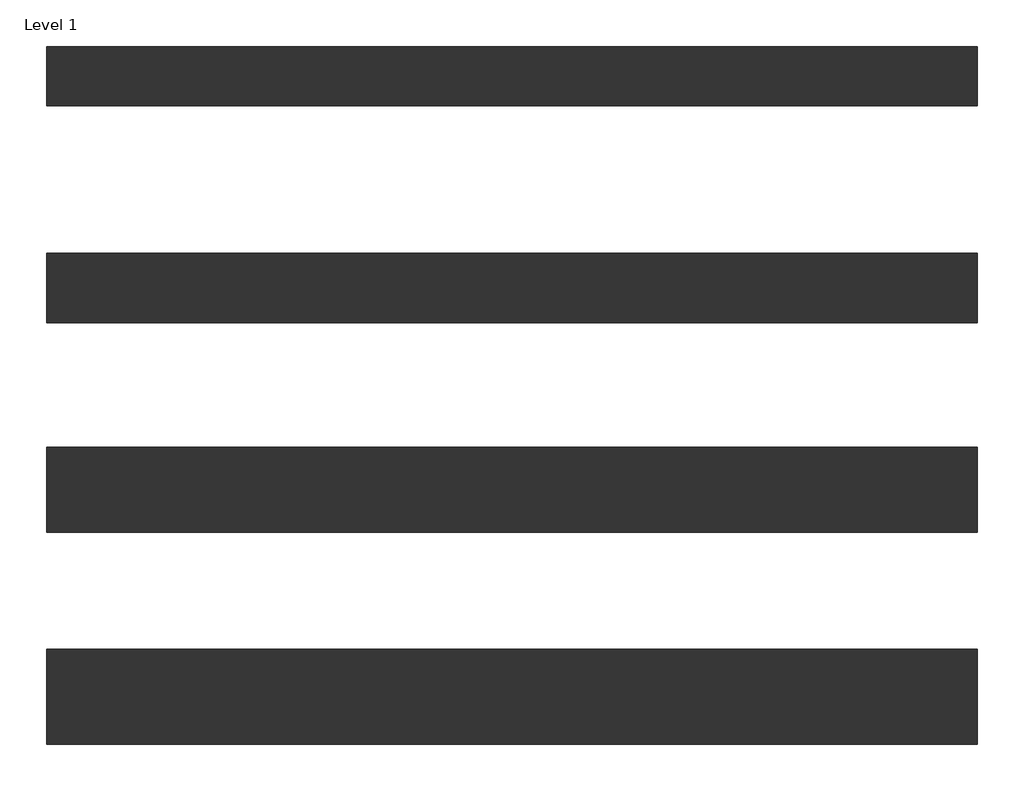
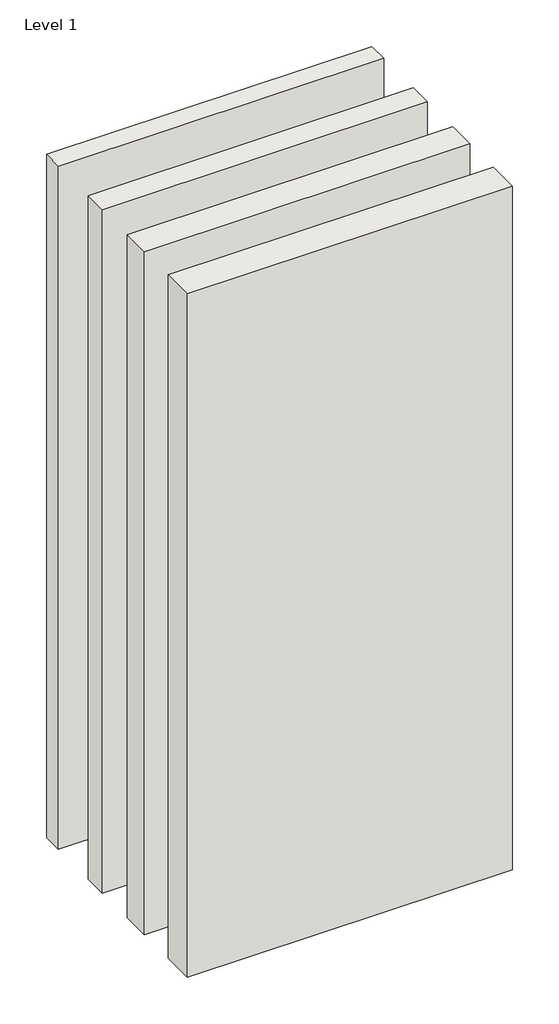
# One storey: 4 walls.
"""IFC4 building model written with IfcOpenShell, lengths in millimetres."""

import ifcopenshell
import ifcopenshell.guid

model = None  # the IFC model being written
_history = None  # IfcOwnerHistory: only IFC2X3 demands one
_inside = {}  # id of a spatial element -> (the spatial element, [elements in it])
_under = {}  # id of a project, library or spatial element -> (it, [spatial elements below it])
_declared = {}  # id of a project -> (the project, [libraries it declares])
_typed = {}  # id of a type object -> (the type object, [elements of that type])
_made_of = {}  # id of a material, layer set ... -> (it, [elements and type objects made of it])


def new_model(schema):
    """Start an empty IFC model of exactly this schema.

    Asked for "IFC4X3", IfcOpenShell would pick the latest addendum, in which some entities
    have other attributes; the version numbers below select the first issue.
    IFC2X3 requires an IfcOwnerHistory on every rooted entity: one is made here for all.
    """
    global model, _history
    if schema == "IFC4X3":
        model = ifcopenshell.file(schema_version=(4, 3, 0, 0))
    else:
        model = ifcopenshell.file(schema=schema)
    _inside.clear()
    _under.clear()
    _declared.clear()
    _typed.clear()
    _made_of.clear()
    _history = None
    if model.schema == "IFC2X3":
        org = make("IfcOrganization", Name="unknown")
        user = make(
            "IfcPersonAndOrganization",
            ThePerson=make("IfcPerson", FamilyName="unknown"),
            TheOrganization=org,
        )
        app = make(
            "IfcApplication",
            ApplicationDeveloper=org,
            Version="unknown",
            ApplicationFullName="unknown",
            ApplicationIdentifier="unknown",
        )
        _history = make(
            "IfcOwnerHistory",
            OwningUser=user,
            OwningApplication=app,
            ChangeAction="ADDED",
            CreationDate=0,
        )
    return model


def make(cls, **values):
    """One entity of the class cls with the attributes given. An attribute that is None is left unset."""
    return model.create_entity(
        cls, **{name: value for name, value in values.items() if value is not None}
    )


def rooted(cls, **values):
    """An entity with a GlobalId (a new one), such as an element, a storey or a relation."""
    return make(cls, GlobalId=ifcopenshell.guid.new(), OwnerHistory=_history, **values)


def si_unit(unit_type, name, prefix=None):
    """IfcSIUnit, for example si_unit("LENGTHUNIT", "METRE", prefix="MILLI")."""
    return make("IfcSIUnit", UnitType=unit_type, Prefix=prefix, Name=name)


def assignment(units):
    """IfcUnitAssignment: the units of a project."""
    return None if units is None else make("IfcUnitAssignment", Units=units)


def point(xyz):
    """IfcCartesianPoint."""
    return None if xyz is None else make("IfcCartesianPoint", Coordinates=xyz)


def direction(xyz):
    """IfcDirection."""
    return None if xyz is None else make("IfcDirection", DirectionRatios=xyz)


def frame(location, z_axis=None, x_axis=None):
    """IfcAxis2Placement3D, a coordinate frame: its origin and axes. An axis left out is left unset."""
    return make(
        "IfcAxis2Placement3D",
        Location=point(location),
        Axis=direction(z_axis),
        RefDirection=direction(x_axis),
    )


def origin():
    """The frame at (0, 0, 0) with its axes left unset."""
    return frame((0.0, 0.0, 0.0))


def origin_with_axes():
    """The frame at (0, 0, 0) with the z axis (0, 0, 1) and the x axis (1, 0, 0) written out."""
    return frame((0.0, 0.0, 0.0), z_axis=(0.0, 0.0, 1.0), x_axis=(1.0, 0.0, 0.0))


def place(relative_to, where):
    """IfcLocalPlacement: puts the frame where relative to a parent placement (None: the world)."""
    return make(
        "IfcLocalPlacement", PlacementRelTo=relative_to, RelativePlacement=where
    )


def context(
    kind, dimensions, precision=None, world=None, true_north=None, identifier=None
):
    """IfcGeometricRepresentationContext, for example the 3D "Model" context."""
    return make(
        "IfcGeometricRepresentationContext",
        ContextIdentifier=identifier,
        ContextType=kind,
        CoordinateSpaceDimension=dimensions,
        Precision=precision,
        WorldCoordinateSystem=world,
        TrueNorth=true_north,
    )


def project(units=None, contexts=None):
    """IfcProject with its units and contexts."""
    return rooted(
        "IfcProject",
        Name="project",
        RepresentationContexts=contexts,
        UnitsInContext=assignment(units),
    )


def spatial(cls, under=None, at=None, **own):
    """A site, building, storey or space (cls), placed at a placement, below another one or the project."""
    s = rooted(cls, ObjectPlacement=at, **own)
    if under is not None:
        _under.setdefault(under.id(), (under, []))[1].append(s)
    return s


def polyline(points):
    """IfcPolyline through the points."""
    return make("IfcPolyline", Points=[point(p) for p in points])


def outline(outer, holes=None, kind="AREA"):
    """IfcArbitraryClosedProfileDef: a profile drawn as a closed curve; with holes, ...WithVoids."""
    if holes is None:
        return make("IfcArbitraryClosedProfileDef", ProfileType=kind, OuterCurve=outer)
    return make(
        "IfcArbitraryProfileDefWithVoids",
        ProfileType=kind,
        OuterCurve=outer,
        InnerCurves=holes,
    )


def extrude(swept, where, along, depth):
    """IfcExtrudedAreaSolid: the profile swept, set in the frame where, extruded along a direction by depth."""
    return make(
        "IfcExtrudedAreaSolid",
        SweptArea=swept,
        Position=where,
        ExtrudedDirection=direction(along),
        Depth=depth,
    )


def shape(context_of_items, identifier, shape_type, items):
    """IfcShapeRepresentation: the items that make up one representation, for example the "Body"."""
    return make(
        "IfcShapeRepresentation",
        ContextOfItems=context_of_items,
        RepresentationIdentifier=identifier,
        RepresentationType=shape_type,
        Items=items,
    )


def made_of(thing, what):
    """Note that an element or type object is made of a material, layer set ...; save() writes the relation."""
    if what is not None:
        _made_of.setdefault(what.id(), (what, []))[1].append(thing)
    return thing


def element(
    cls,
    number,
    at=None,
    inside=None,
    cuts=None,
    type_object=None,
    material=None,
    context=None,
    identifier="Body",
    shape_type=None,
    held_by="IfcProductDefinitionShape",
    body=None,
    shapes=None,
    **own,
):
    """One element of the class cls, such as IfcWall. Its Tag is "e" and its number.

    at: its placement. inside: the storey or other place that contains it. cuts: it is an
    opening in that element (IfcRelVoidsElement). A single representation is given by context,
    identifier, shape_type and body (its items); several are given by shapes. held_by: the class
    of the entity that holds the representations. save() writes the other relations.
    """
    e = rooted(cls, Tag="e%d" % number, ObjectPlacement=at, **own)
    if body is not None:
        shapes = [shape(context, identifier, shape_type, body)]
    if shapes is not None:
        e.Representation = make(held_by, Representations=shapes)
    if inside is not None:
        _inside.setdefault(inside.id(), (inside, []))[1].append(e)
    if cuts is not None:
        rooted(
            "IfcRelVoidsElement", RelatingBuildingElement=cuts, RelatedOpeningElement=e
        )
    if type_object is not None:
        _typed.setdefault(type_object.id(), (type_object, []))[1].append(e)
    return made_of(e, material)


def aggregate(whole, parts):
    """IfcRelAggregates: a whole, such as a stair, and the parts it consists of."""
    return rooted("IfcRelAggregates", RelatingObject=whole, RelatedObjects=parts)


def save(model, path):
    """Write the relations noted so far, then the file.

    IfcRelAggregates (storeys below a building ...), IfcRelContainedInSpatialStructure (elements
    in a storey), IfcRelDefinesByType, IfcRelAssociatesMaterial and IfcRelDeclares: one each for
    every whole, place, type object, material and project.
    """
    for whole, parts in _under.values():
        aggregate(whole, parts)
    for where, things in _inside.values():
        rooted(
            "IfcRelContainedInSpatialStructure",
            RelatedElements=things,
            RelatingStructure=where,
        )
    for kind, things in _typed.values():
        rooted("IfcRelDefinesByType", RelatedObjects=things, RelatingType=kind)
    for what, things in _made_of.values():
        rooted("IfcRelAssociatesMaterial", RelatedObjects=things, RelatingMaterial=what)
    for by, libraries in _declared.values():
        rooted("IfcRelDeclares", RelatingContext=by, RelatedDefinitions=libraries)
    model.write(path)


model = new_model("IFC4")

# Units and contexts
model_context = context("Model", 3, world=origin())
ifc_project = project(units=[si_unit("LENGTHUNIT", "METRE", prefix="MILLI")], contexts=[model_context])

# Site, building, storey
site = spatial("IfcSite", under=ifc_project)
building = spatial("IfcBuilding", under=site)
storey = spatial("IfcBuildingStorey", under=building, Name="Level 1", Elevation=0.0)

# Walls
placement = place(None, origin())
element("IfcWall", 1, ObjectType="Interior-Timber Frame-Single Stud-CSR2080-114mm", at=placement, inside=storey, context=model_context, shape_type="SweptSolid", body=[
    extrude(outline(polyline([(1209.1027791, -3479.5592728), (3009.1027791, -3479.5592728), (3009.1027791, -3593.5592728), (1209.1027791, -3593.5592728), (1209.1027791, -3479.5592728)])), origin_with_axes(), (0.0, 0.0, 1.0), 4000.0),
])
element("IfcWall", 2, ObjectType="Interior-Timber Frame-Single Stud-CSR2080-134mm", at=placement, inside=storey, context=model_context, shape_type="SweptSolid", body=[
    extrude(outline(polyline([(1209.1027791, -3879.5592728), (3009.1027791, -3879.5592728), (3009.1027791, -4013.5592728), (1209.1027791, -4013.5592728), (1209.1027791, -3879.5592728)])), origin_with_axes(), (0.0, 0.0, 1.0), 4000.0),
])
element("IfcWall", 3, ObjectType="Interior-Timber Frame-Single Stud-CSR2080-164mm", at=placement, inside=storey, context=model_context, shape_type="SweptSolid", body=[
    extrude(outline(polyline([(1209.1027791, -4254.5592728), (3009.1027791, -4254.5592728), (3009.1027791, -4418.5592728), (1209.1027791, -4418.5592728), (1209.1027791, -4254.5592728)])), origin_with_axes(), (0.0, 0.0, 1.0), 4000.0),
])
element("IfcWall", 4, ObjectType="Interior-Timber Frame-Single Stud-CSR2080-184mm", at=placement, inside=storey, context=model_context, shape_type="SweptSolid", body=[
    extrude(outline(polyline([(1209.1027791, -4644.5592728), (3009.1027791, -4644.5592728), (3009.1027791, -4828.5592728), (1209.1027791, -4828.5592728), (1209.1027791, -4644.5592728)])), origin_with_axes(), (0.0, 0.0, 1.0), 4000.0),
])

save(model, "model.ifc")
